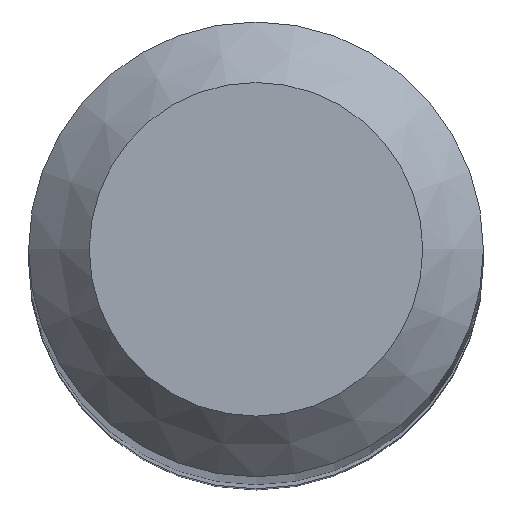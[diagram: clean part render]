
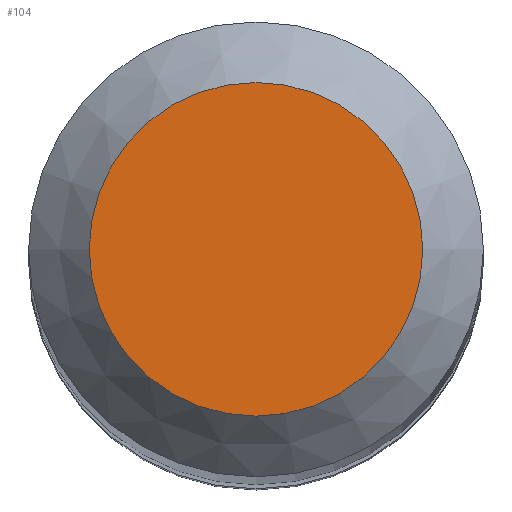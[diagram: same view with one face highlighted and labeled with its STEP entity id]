
A CAD part, top view. The second image highlights one B-rep face of the part: STEP entity #104.
In plain terms, the highlighted planar face has unit normal (0, 0, 1).
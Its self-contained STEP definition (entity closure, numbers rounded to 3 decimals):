
#88=CARTESIAN_POINT('',(2.2,0.0,100.0));
#89=DIRECTION('',(0.0,0.0,1.0));
#90=DIRECTION('',(1.0,0.0,0.0));
#91=AXIS2_PLACEMENT_3D('',#88,#89,#90);
#92=PLANE('',#91);
#93=CARTESIAN_POINT('',(-2.2,0.0,100.0));
#94=VERTEX_POINT('',#93);
#95=CARTESIAN_POINT('',(0.0,0.0,100.0));
#96=DIRECTION('',(0.0,0.0,-1.0));
#97=DIRECTION('',(-1.0,0.0,0.0));
#98=AXIS2_PLACEMENT_3D('',#95,#96,#97);
#99=CIRCLE('',#98,2.2);
#100=EDGE_CURVE('',#94,#94,#99,.T.);
#101=ORIENTED_EDGE('',*,*,#100,.F.);
#102=EDGE_LOOP('',(#101));
#103=FACE_OUTER_BOUND('',#102,.T.);
#104=ADVANCED_FACE('',(#103),#92,.T.);
